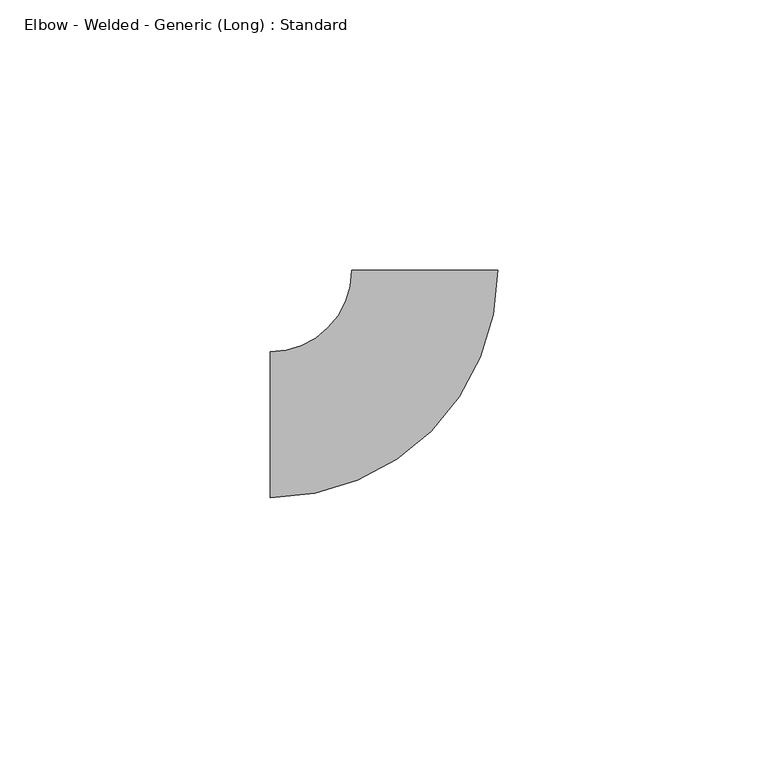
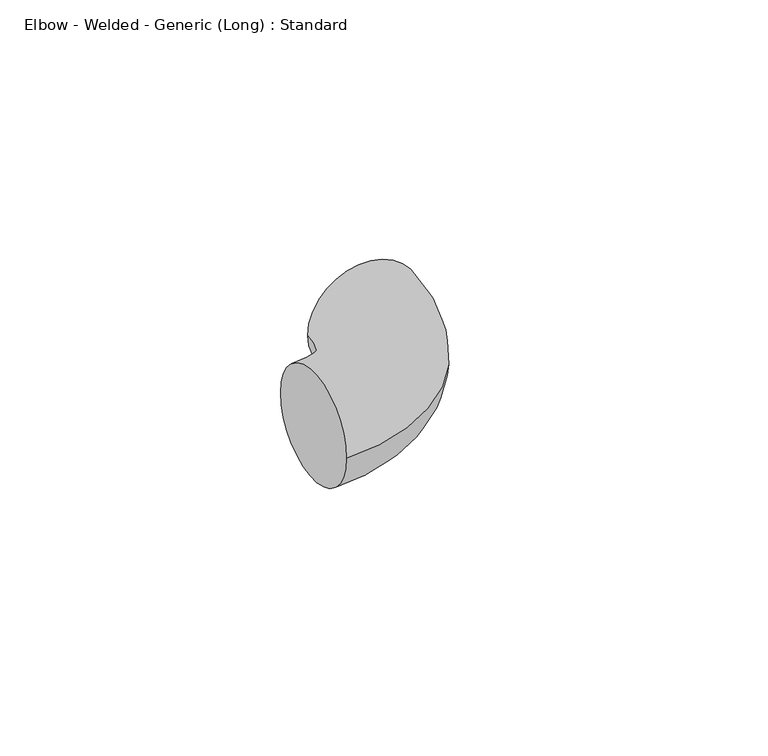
"""IFC4 building model written with IfcOpenShell, lengths in millimetres: pipe fitting geometry, Elbow - Welded - Generic (Long) : Standard."""

from ifc_helpers import new_model, si_unit, point, frame, origin, place, context, project, spatial, circle_curve, ellipse_curve, trimmed, source, transform, mapped, element, save
from ifc_brep_helpers import plane_surface, revolved_surface, advanced_brep


def elbow_welded_generic_long_standard_0b4c1997(model_context):
    return source(origin(), model_context, "Body", "AdvancedBrep", [
        advanced_brep(
        [(-28.575, -13.49375, 0.0), (-28.575, 13.49375, 0.0), (13.5373344, 28.5543778, 0.0), (-13.4501342, 28.5955557, 0.0)],
        [
            (0, 1, circle_curve(frame((-28.575, 0.0, 0.0), z_axis=(-1.0, 0.0, 0.0), x_axis=(0.0, 1.0, 0.0)), 13.49375)),
            (1, 0, circle_curve(frame((-28.575, 0.0, 0.0), z_axis=(-1.0, 0.0, 0.0), x_axis=(0.0, 1.0, 0.0)), 13.49375)),
            (2, 3, circle_curve(frame((0.0436001, 28.5749667, 0.0), z_axis=(0.0015258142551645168, 0.9999988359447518, 0.0), x_axis=(-0.9999988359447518, 0.0015258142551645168, 0.0)), 13.49375)),
            (3, 2, circle_curve(frame((0.0436001, 28.5749667, 0.0), z_axis=(0.0015258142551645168, 0.9999988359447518, 0.0), x_axis=(-0.9999988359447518, 0.0015258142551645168, 0.0)), 13.49375)),
            (3, 1, circle_curve(frame((-28.575, 28.6186335, 0.0), z_axis=(0.0, 0.0, -1.0), x_axis=(0.0, -1.0, 0.0)), 15.1248835)),
            (0, 2, circle_curve(frame((-28.575, 28.6186335, 0.0), z_axis=(0.0, 0.0, 1.0), x_axis=(0.0, -1.0, 0.0)), 42.1123835)),
        ],
        [
            plane_surface(frame((-28.575, 0.0, 0.0), z_axis=(-1.0, 0.0, 0.0), x_axis=(0.0, 0.0, 1.0))),
            plane_surface(frame((0.0436001, 28.5749667, 0.0), z_axis=(0.001525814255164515, 0.9999988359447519, 0.0), x_axis=(0.0, 0.0, 1.0))),
            revolved_surface(trimmed(ellipse_curve(frame((-28.575, 0.0, 0.0), z_axis=(-1.0, 0.0, 0.0), x_axis=(0.0, 1.0, 0.0)), 13.49375, 13.49375), [point((-28.575, -13.49375, 0.0))], [point((-28.575, 13.49375, 0.0))], True, "CARTESIAN"), (-28.575, 28.6186335, 0.0), (0.0, 0.0, 1.0)),
            revolved_surface(trimmed(ellipse_curve(frame((-28.575, 0.0, 0.0), z_axis=(-1.0, 0.0, 0.0), x_axis=(0.0, 1.0, 0.0)), 13.49375, 13.49375), [point((-28.575, 13.49375, 0.0))], [point((-28.575, -13.49375, 0.0))], True, "CARTESIAN"), (-28.575, 28.6186335, 0.0), (0.0, 0.0, 1.0)),
        ],
        [
            (0, [[1, 2]]),
            (1, [[3, 4]]),
            (2, [[5, -1, 6, -4]]),
            (3, [[-6, -2, -5, -3]]),
        ],
    ),
    ])


if __name__ == "__main__":
    model = new_model("IFC4")
    model_context = context("Model", 3, world=origin())
    ifc_project = project(units=[si_unit("LENGTHUNIT", "METRE", prefix="MILLI")], contexts=[model_context])
    site = spatial("IfcSite", under=ifc_project)
    building = spatial("IfcBuilding", under=site)
    placement = place(None, origin())
    elbow_welded_generic_long_standard_shape = elbow_welded_generic_long_standard_0b4c1997(model_context)
    element("IfcPipeFitting", 1, ObjectType="Elbow - Welded - Generic (Long) : Standard", at=placement, inside=building, context=model_context, shape_type="MappedRepresentation", body=[
        mapped(elbow_welded_generic_long_standard_shape, transform((0.0, 0.0, 0.0), x_axis=(1.0, 0.0, 0.0), y_axis=(0.0, 1.0, 0.0), z_axis=(0.0, 0.0, 1.0))),
    ])
    save(model, "model.ifc")
